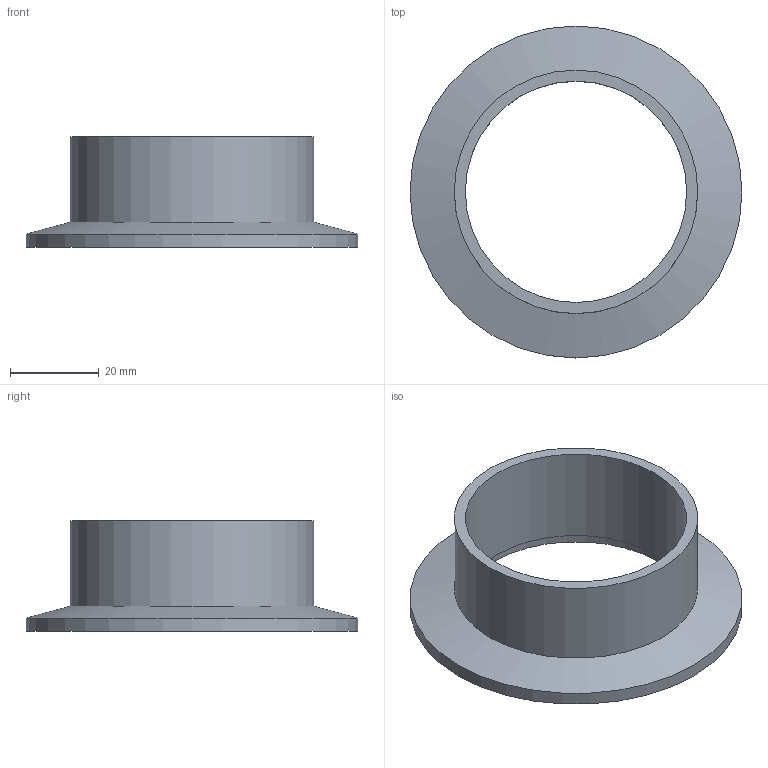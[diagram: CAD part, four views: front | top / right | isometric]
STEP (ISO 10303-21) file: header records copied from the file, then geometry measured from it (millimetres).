
FILE_DESCRIPTION( ( 'Unknown' ), '1' );
FILE_NAME( 'X:/Daten ( aktueller Bestand )/Projekte und Zeichnungen/Solid Edge/STP-Dateien/KF/1507.stp', 'Unknown', ( 'Unknown' ), ( 'Unknown' ), 'PSStep 14.0', 'Unknown', ' ' );
FILE_SCHEMA( ( 'AUTOMOTIVE_DESIGN { 1 0 10303 214 1 1 1 1 }' ) );
Length unit declared in the file: millimetre
Products named in the file (1): 1
Bounding box: 75 x 75 x 25 mm (x, y, z)
Volume: 18588.5 mm3; surface area: 12970.2 mm2
Topology: 1 solids, 1 shells, 8 faces, 13 edges, 8 vertices
Faces by surface type: cylinder 4, plane 3, cone 1
Full cylindrical faces by diameter (mm): 50 x1, 52.2 x1, 55 x1, 75 x1
Entity records: 248 total; most frequent: DIRECTION 34, CARTESIAN_POINT 25, AXIS2_PLACEMENT_3D 17, EDGE_LOOP 16, ORIENTED_EDGE 16, FACE_OUTER_BOUND 12, STYLED_ITEM 8, PRESENTATION_STYLE_ASSIGNMENT 8
